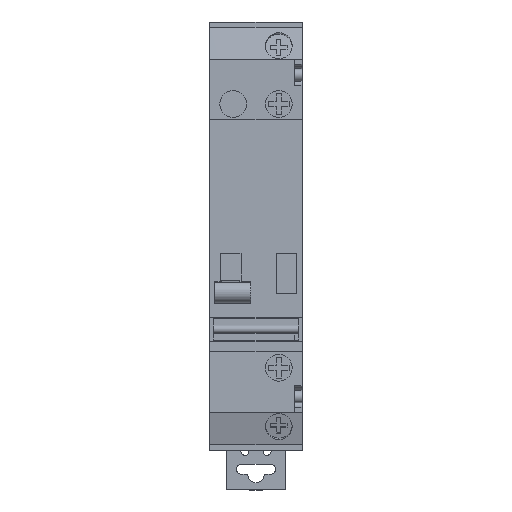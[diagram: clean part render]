
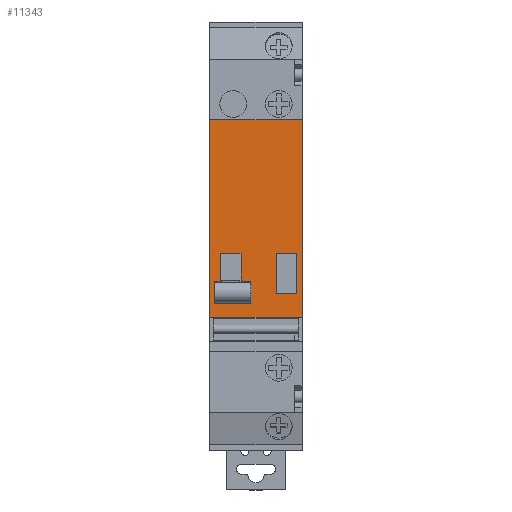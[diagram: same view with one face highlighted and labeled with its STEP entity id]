
A CAD part, top view. The second image highlights one B-rep face of the part: STEP entity #11343.
In plain terms, the highlighted planar face has unit normal (0, 0, 1).
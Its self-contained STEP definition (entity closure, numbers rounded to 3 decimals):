
#78=DIRECTION('',(0.,1.,0.));
#79=VECTOR('',#78,38.2);
#80=CARTESIAN_POINT('',(0.,24.6,65.5));
#81=LINE('',#80,#79);
#1182=DIRECTION('',(0.,1.,0.));
#1183=VECTOR('',#1182,38.2);
#1184=CARTESIAN_POINT('',(17.8,24.6,65.5));
#1185=LINE('',#1184,#1183);
#3803=DIRECTION('',(1.,0.,0.));
#3804=VECTOR('',#3803,17.8);
#3805=CARTESIAN_POINT('',(0.,62.8,65.5));
#3806=LINE('',#3805,#3804);
#3807=DIRECTION('',(1.,0.,0.));
#3808=VECTOR('',#3807,17.8);
#3809=CARTESIAN_POINT('',(0.,24.6,65.5));
#3810=LINE('',#3809,#3808);
#3811=DIRECTION('',(0.,-1.,0.));
#3812=VECTOR('',#3811,0.922);
#3813=CARTESIAN_POINT('',(2.2,28.5,65.5));
#3814=LINE('',#3813,#3812);
#3815=DIRECTION('',(-1.,0.,0.));
#3816=VECTOR('',#3815,3.6);
#3817=CARTESIAN_POINT('',(5.8,27.578,65.5));
#3818=LINE('',#3817,#3816);
#3819=DIRECTION('',(0.,-1.,0.));
#3820=VECTOR('',#3819,0.922);
#3821=CARTESIAN_POINT('',(5.8,28.5,65.5));
#3822=LINE('',#3821,#3820);
#3823=DIRECTION('',(1.,0.,0.));
#3824=VECTOR('',#3823,0.2);
#3825=CARTESIAN_POINT('',(5.8,28.5,65.5));
#3826=LINE('',#3825,#3824);
#3827=DIRECTION('',(0.,1.,0.));
#3828=VECTOR('',#3827,8.4);
#3829=CARTESIAN_POINT('',(6.,28.5,65.5));
#3830=LINE('',#3829,#3828);
#3831=DIRECTION('',(-1.,0.,0.));
#3832=VECTOR('',#3831,4.);
#3833=CARTESIAN_POINT('',(6.,36.9,65.5));
#3834=LINE('',#3833,#3832);
#3835=DIRECTION('',(0.,-1.,0.));
#3836=VECTOR('',#3835,8.4);
#3837=CARTESIAN_POINT('',(2.,36.9,65.5));
#3838=LINE('',#3837,#3836);
#3839=DIRECTION('',(1.,0.,0.));
#3840=VECTOR('',#3839,0.2);
#3841=CARTESIAN_POINT('',(2.,28.5,65.5));
#3842=LINE('',#3841,#3840);
#3843=DIRECTION('',(0.,-1.,0.));
#3844=VECTOR('',#3843,7.6);
#3845=CARTESIAN_POINT('',(12.8,36.9,65.5));
#3846=LINE('',#3845,#3844);
#3847=DIRECTION('',(1.,0.,0.));
#3848=VECTOR('',#3847,4.);
#3849=CARTESIAN_POINT('',(12.8,29.3,65.5));
#3850=LINE('',#3849,#3848);
#3851=DIRECTION('',(0.,1.,0.));
#3852=VECTOR('',#3851,7.6);
#3853=CARTESIAN_POINT('',(16.8,29.3,65.5));
#3854=LINE('',#3853,#3852);
#3855=DIRECTION('',(-1.,0.,0.));
#3856=VECTOR('',#3855,4.);
#3857=CARTESIAN_POINT('',(16.8,36.9,65.5));
#3858=LINE('',#3857,#3856);
#4631=CARTESIAN_POINT('',(0.,24.6,65.5));
#4632=VERTEX_POINT('',#4631);
#4633=CARTESIAN_POINT('',(0.,62.8,65.5));
#4634=VERTEX_POINT('',#4633);
#4729=CARTESIAN_POINT('',(17.8,24.6,65.5));
#4730=VERTEX_POINT('',#4729);
#4731=CARTESIAN_POINT('',(17.8,62.8,65.5));
#4732=VERTEX_POINT('',#4731);
#5559=CARTESIAN_POINT('',(6.,28.5,65.5));
#5560=CARTESIAN_POINT('',(6.,36.9,65.5));
#5561=VERTEX_POINT('',#5559);
#5562=VERTEX_POINT('',#5560);
#5563=CARTESIAN_POINT('',(2.,36.9,65.5));
#5564=VERTEX_POINT('',#5563);
#5565=CARTESIAN_POINT('',(2.,28.5,65.5));
#5566=VERTEX_POINT('',#5565);
#5587=CARTESIAN_POINT('',(2.2,28.5,65.5));
#5588=CARTESIAN_POINT('',(2.2,27.578,65.5));
#5589=VERTEX_POINT('',#5587);
#5590=VERTEX_POINT('',#5588);
#5591=CARTESIAN_POINT('',(5.8,28.5,65.5));
#5592=CARTESIAN_POINT('',(5.8,27.578,65.5));
#5593=VERTEX_POINT('',#5591);
#5594=VERTEX_POINT('',#5592);
#6043=CARTESIAN_POINT('',(12.8,36.9,65.5));
#6044=VERTEX_POINT('',#6043);
#6045=CARTESIAN_POINT('',(12.8,29.3,65.5));
#6046=VERTEX_POINT('',#6045);
#6047=CARTESIAN_POINT('',(16.8,29.3,65.5));
#6048=VERTEX_POINT('',#6047);
#6049=CARTESIAN_POINT('',(16.8,36.9,65.5));
#6050=VERTEX_POINT('',#6049);
#11303=CARTESIAN_POINT('',(0.,24.6,65.5));
#11304=DIRECTION('',(0.,0.,1.));
#11305=DIRECTION('',(0.,1.,0.));
#11306=AXIS2_PLACEMENT_3D('',#11303,#11304,#11305);
#11307=PLANE('',#11306);
#11308=ORIENTED_EDGE('',*,*,#6098,.T.);
#11309=ORIENTED_EDGE('',*,*,#11298,.T.);
#11310=ORIENTED_EDGE('',*,*,#7092,.F.);
#11312=ORIENTED_EDGE('',*,*,#11311,.F.);
#11313=EDGE_LOOP('',(#11308,#11309,#11310,#11312));
#11314=FACE_OUTER_BOUND('',#11313,.F.);
#11316=ORIENTED_EDGE('',*,*,#11315,.T.);
#11318=ORIENTED_EDGE('',*,*,#11317,.F.);
#11320=ORIENTED_EDGE('',*,*,#11319,.F.);
#11322=ORIENTED_EDGE('',*,*,#11321,.T.);
#11324=ORIENTED_EDGE('',*,*,#11323,.T.);
#11326=ORIENTED_EDGE('',*,*,#11325,.T.);
#11328=ORIENTED_EDGE('',*,*,#11327,.T.);
#11330=ORIENTED_EDGE('',*,*,#11329,.T.);
#11331=EDGE_LOOP('',(#11316,#11318,#11320,#11322,#11324,#11326,#11328,#11330));
#11332=FACE_BOUND('',#11331,.F.);
#11334=ORIENTED_EDGE('',*,*,#11333,.T.);
#11336=ORIENTED_EDGE('',*,*,#11335,.T.);
#11338=ORIENTED_EDGE('',*,*,#11337,.T.);
#11340=ORIENTED_EDGE('',*,*,#11339,.T.);
#11341=EDGE_LOOP('',(#11334,#11336,#11338,#11340));
#11342=FACE_BOUND('',#11341,.F.);
#6098=EDGE_CURVE('',#4632,#4634,#81,.T.);
#7092=EDGE_CURVE('',#4730,#4732,#1185,.T.);
#11298=EDGE_CURVE('',#4634,#4732,#3806,.T.);
#11311=EDGE_CURVE('',#4632,#4730,#3810,.T.);
#11315=EDGE_CURVE('',#5589,#5590,#3814,.T.);
#11317=EDGE_CURVE('',#5594,#5590,#3818,.T.);
#11319=EDGE_CURVE('',#5593,#5594,#3822,.T.);
#11321=EDGE_CURVE('',#5593,#5561,#3826,.T.);
#11323=EDGE_CURVE('',#5561,#5562,#3830,.T.);
#11325=EDGE_CURVE('',#5562,#5564,#3834,.T.);
#11327=EDGE_CURVE('',#5564,#5566,#3838,.T.);
#11329=EDGE_CURVE('',#5566,#5589,#3842,.T.);
#11333=EDGE_CURVE('',#6044,#6046,#3846,.T.);
#11335=EDGE_CURVE('',#6046,#6048,#3850,.T.);
#11337=EDGE_CURVE('',#6048,#6050,#3854,.T.);
#11339=EDGE_CURVE('',#6050,#6044,#3858,.T.);
#11343=ADVANCED_FACE('',(#11314,#11332,#11342),#11307,.T.);
